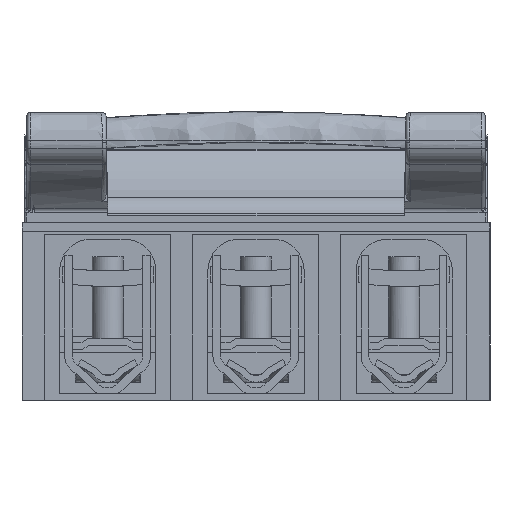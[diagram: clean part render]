
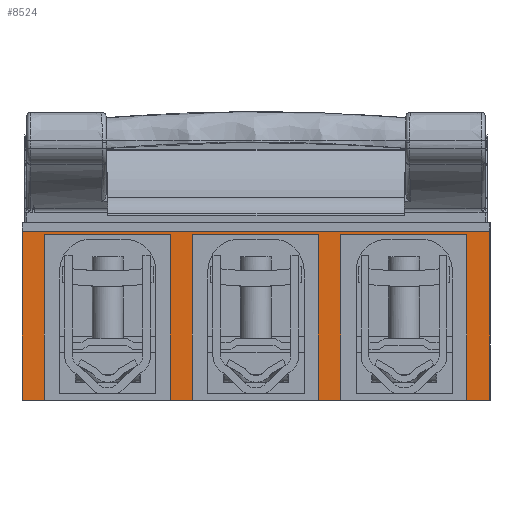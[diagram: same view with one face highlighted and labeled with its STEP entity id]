
A CAD part, left-side view. The second image highlights one B-rep face of the part: STEP entity #8524.
In plain terms, the highlighted planar face has unit normal (-1, 0, 0).
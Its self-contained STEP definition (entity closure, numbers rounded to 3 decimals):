
#8524=ADVANCED_FACE('',(#12913),#11214,.F.);
#11214=PLANE('',#51761);
#12913=FACE_OUTER_BOUND('',#15492,.T.);
#15492=EDGE_LOOP('',(#18444,#18445,#18446,#18447,#18448,#18449,#18450,#18451,
#18452,#18453,#18454,#18455,#18456,#18457,#18458,#18459));
#18444=ORIENTED_EDGE('',*,*,#37207,.F.);
#18445=ORIENTED_EDGE('',*,*,#37219,.T.);
#18446=ORIENTED_EDGE('',*,*,#37248,.T.);
#18447=ORIENTED_EDGE('',*,*,#37249,.T.);
#18448=ORIENTED_EDGE('',*,*,#37250,.F.);
#18449=ORIENTED_EDGE('',*,*,#37215,.T.);
#18450=ORIENTED_EDGE('',*,*,#37191,.F.);
#18451=ORIENTED_EDGE('',*,*,#37193,.F.);
#18452=ORIENTED_EDGE('',*,*,#37187,.F.);
#18453=ORIENTED_EDGE('',*,*,#37223,.T.);
#18454=ORIENTED_EDGE('',*,*,#37201,.F.);
#18455=ORIENTED_EDGE('',*,*,#37203,.F.);
#18456=ORIENTED_EDGE('',*,*,#37197,.F.);
#18457=ORIENTED_EDGE('',*,*,#37221,.T.);
#18458=ORIENTED_EDGE('',*,*,#37211,.F.);
#18459=ORIENTED_EDGE('',*,*,#37213,.F.);
#32600=VERTEX_POINT('',#69253);
#32603=VERTEX_POINT('',#69258);
#32604=VERTEX_POINT('',#69262);
#32607=VERTEX_POINT('',#69267);
#32608=VERTEX_POINT('',#69274);
#32611=VERTEX_POINT('',#69279);
#32612=VERTEX_POINT('',#69283);
#32615=VERTEX_POINT('',#69288);
#32616=VERTEX_POINT('',#69295);
#32619=VERTEX_POINT('',#69300);
#32620=VERTEX_POINT('',#69304);
#32623=VERTEX_POINT('',#69309);
#32624=VERTEX_POINT('',#69317);
#32627=VERTEX_POINT('',#69323);
#32652=VERTEX_POINT('',#69379);
#32653=VERTEX_POINT('',#69381);
#37187=EDGE_CURVE('',#32603,#32600,#44303,.T.);
#37191=EDGE_CURVE('',#32607,#32604,#44307,.T.);
#37193=EDGE_CURVE('',#32600,#32607,#44309,.T.);
#37197=EDGE_CURVE('',#32611,#32608,#44313,.T.);
#37201=EDGE_CURVE('',#32615,#32612,#44317,.T.);
#37203=EDGE_CURVE('',#32608,#32615,#44319,.T.);
#37207=EDGE_CURVE('',#32619,#32616,#44323,.T.);
#37211=EDGE_CURVE('',#32623,#32620,#44327,.T.);
#37213=EDGE_CURVE('',#32616,#32623,#44329,.T.);
#37215=EDGE_CURVE('',#32624,#32604,#44331,.T.);
#37219=EDGE_CURVE('',#32619,#32627,#44335,.T.);
#37221=EDGE_CURVE('',#32611,#32620,#44337,.T.);
#37223=EDGE_CURVE('',#32603,#32612,#44339,.T.);
#37248=EDGE_CURVE('',#32627,#32652,#44352,.T.);
#37249=EDGE_CURVE('',#32652,#32653,#44353,.T.);
#37250=EDGE_CURVE('',#32624,#32653,#44354,.T.);
#44303=LINE('',#69259,#48008);
#44307=LINE('',#69268,#48012);
#44309=LINE('',#69271,#48014);
#44313=LINE('',#69280,#48018);
#44317=LINE('',#69289,#48022);
#44319=LINE('',#69292,#48024);
#44323=LINE('',#69301,#48028);
#44327=LINE('',#69310,#48032);
#44329=LINE('',#69313,#48034);
#44331=LINE('',#69316,#48036);
#44335=LINE('',#69324,#48040);
#44337=LINE('',#69326,#48042);
#44339=LINE('',#69328,#48044);
#44352=LINE('',#69378,#48057);
#44353=LINE('',#69380,#48058);
#44354=LINE('',#69382,#48059);
#48008=VECTOR('',#56329,1.);
#48012=VECTOR('',#56335,1.);
#48014=VECTOR('',#56339,1.);
#48018=VECTOR('',#56345,1.);
#48022=VECTOR('',#56351,1.);
#48024=VECTOR('',#56355,1.);
#48028=VECTOR('',#56361,1.);
#48032=VECTOR('',#56367,1.);
#48034=VECTOR('',#56371,1.);
#48036=VECTOR('',#56375,1.);
#48040=VECTOR('',#56379,1.);
#48042=VECTOR('',#56381,1.);
#48044=VECTOR('',#56383,1.);
#48057=VECTOR('',#56422,1.);
#48058=VECTOR('',#56423,1.);
#48059=VECTOR('',#56424,1.);
#51761=AXIS2_PLACEMENT_3D('',#69383,#56425,#56426);
#56329=DIRECTION('',(0.,0.,1.));
#56335=DIRECTION('',(0.,0.,-1.));
#56339=DIRECTION('',(0.,1.,0.));
#56345=DIRECTION('',(0.,0.,1.));
#56351=DIRECTION('',(0.,0.,-1.));
#56355=DIRECTION('',(0.,1.,0.));
#56361=DIRECTION('',(0.,0.,1.));
#56367=DIRECTION('',(0.,0.,-1.));
#56371=DIRECTION('',(0.,1.,0.));
#56375=DIRECTION('',(0.,-1.,0.));
#56379=DIRECTION('',(0.,-1.,0.));
#56381=DIRECTION('',(0.,-1.,0.));
#56383=DIRECTION('',(0.,-1.,0.));
#56422=DIRECTION('',(0.,0.,1.));
#56423=DIRECTION('',(0.,1.,0.));
#56424=DIRECTION('',(0.,0.,1.));
#56425=DIRECTION('',(1.,0.,0.));
#56426=DIRECTION('',(0.,1.,0.));
#69253=CARTESIAN_POINT('',(-103.372,42.76,175.838));
#69258=CARTESIAN_POINT('',(-103.372,42.76,112.088));
#69259=CARTESIAN_POINT('',(-103.372,42.76,203.088));
#69262=CARTESIAN_POINT('',(-103.372,91.26,112.088));
#69267=CARTESIAN_POINT('',(-103.372,91.26,175.838));
#69268=CARTESIAN_POINT('',(-103.372,91.26,203.088));
#69271=CARTESIAN_POINT('',(-103.372,95.284,175.838));
#69274=CARTESIAN_POINT('',(-103.372,-14.24,175.838));
#69279=CARTESIAN_POINT('',(-103.372,-14.24,112.088));
#69280=CARTESIAN_POINT('',(-103.372,-14.24,203.088));
#69283=CARTESIAN_POINT('',(-103.372,34.26,112.088));
#69288=CARTESIAN_POINT('',(-103.372,34.26,175.838));
#69289=CARTESIAN_POINT('',(-103.372,34.26,203.088));
#69292=CARTESIAN_POINT('',(-103.372,95.284,175.838));
#69295=CARTESIAN_POINT('',(-103.372,-71.24,175.838));
#69300=CARTESIAN_POINT('',(-103.372,-71.24,112.088));
#69301=CARTESIAN_POINT('',(-103.372,-71.24,203.088));
#69304=CARTESIAN_POINT('',(-103.372,-22.74,112.088));
#69309=CARTESIAN_POINT('',(-103.372,-22.74,175.838));
#69310=CARTESIAN_POINT('',(-103.372,-22.74,203.088));
#69313=CARTESIAN_POINT('',(-103.372,95.284,175.838));
#69316=CARTESIAN_POINT('',(-103.372,95.284,112.088));
#69317=CARTESIAN_POINT('',(-103.372,99.784,112.088));
#69323=CARTESIAN_POINT('',(-103.372,-80.216,112.088));
#69324=CARTESIAN_POINT('',(-103.372,95.284,112.088));
#69326=CARTESIAN_POINT('',(-103.372,95.284,112.088));
#69328=CARTESIAN_POINT('',(-103.372,95.284,112.088));
#69378=CARTESIAN_POINT('',(-103.372,-80.216,117.088));
#69379=CARTESIAN_POINT('',(-103.372,-80.216,177.006));
#69380=CARTESIAN_POINT('',(-103.372,95.284,177.006));
#69381=CARTESIAN_POINT('',(-103.372,99.784,177.006));
#69382=CARTESIAN_POINT('',(-103.372,99.784,117.088));
#69383=CARTESIAN_POINT('',(-103.372,95.284,203.088));
